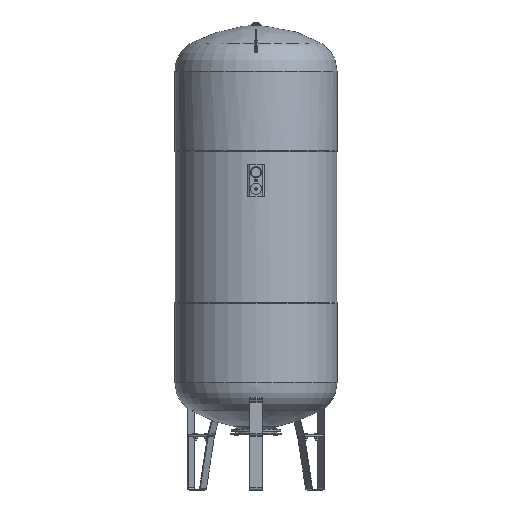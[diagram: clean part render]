
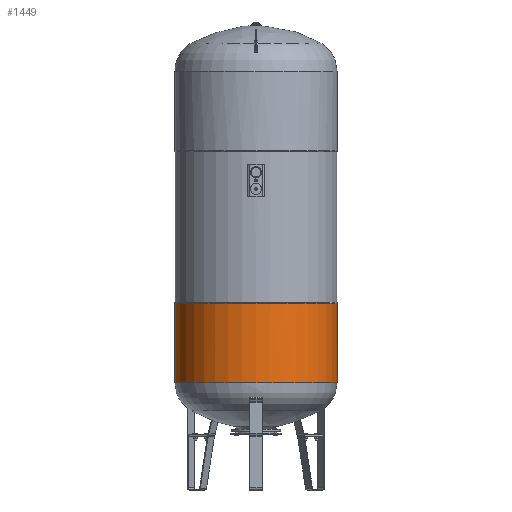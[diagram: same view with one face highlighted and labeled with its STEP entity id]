
A CAD part, front view. The second image highlights one B-rep face of the part: STEP entity #1449.
In plain terms, the highlighted cylindrical face has radius 390 mm (diameter 780 mm), a full revolution.
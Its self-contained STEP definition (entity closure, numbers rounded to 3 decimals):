
#1449=ADVANCED_FACE('',(#22510,#22512),#22514,.T.);
#22510=FACE_BOUND('',#22511,.T.);
#22511=EDGE_LOOP('',(#28095,#28096,#28097));
#22512=FACE_BOUND('',#22513,.T.);
#22513=EDGE_LOOP('',(#28098,#28099,#28100));
#22514=CYLINDRICAL_SURFACE('',#22515,390.);
#22515=AXIS2_PLACEMENT_3D('',#22516,#22517,#22518);
#22516=CARTESIAN_POINT('',(0.,0.,-559.801));
#22517=DIRECTION('',(0.,0.,-1.));
#22518=DIRECTION('',(0.,-1.,0.));
#28095=ORIENTED_EDGE('',*,*,#31824,.F.);
#28096=ORIENTED_EDGE('',*,*,#31823,.F.);
#28097=ORIENTED_EDGE('',*,*,#31822,.F.);
#28098=ORIENTED_EDGE('',*,*,#31797,.T.);
#28099=ORIENTED_EDGE('',*,*,#31796,.T.);
#28100=ORIENTED_EDGE('',*,*,#31795,.T.);
#31795=EDGE_CURVE('',#34240,#34241,#34242,.T.);
#31796=EDGE_CURVE('',#34243,#34240,#34244,.T.);
#31797=EDGE_CURVE('',#34241,#34243,#34245,.T.);
#31822=EDGE_CURVE('',#34294,#34295,#34296,.T.);
#31823=EDGE_CURVE('',#34295,#34297,#34298,.T.);
#31824=EDGE_CURVE('',#34297,#34294,#34299,.T.);
#34240=VERTEX_POINT('',#45803);
#34241=VERTEX_POINT('',#45804);
#34242=CIRCLE('',#45805,390.);
#34243=VERTEX_POINT('',#45809);
#34244=CIRCLE('',#45810,390.);
#34245=CIRCLE('',#45814,390.);
#34294=VERTEX_POINT('',#46028);
#34295=VERTEX_POINT('',#46029);
#34296=CIRCLE('',#46030,390.);
#34297=VERTEX_POINT('',#46034);
#34298=CIRCLE('',#46035,390.);
#34299=CIRCLE('',#46039,390.);
#45803=CARTESIAN_POINT('',(-389.998,1.386,-368.99));
#45804=CARTESIAN_POINT('',(0.,390.,-368.99));
#45805=AXIS2_PLACEMENT_3D('',#45806,#45807,#45808);
#45806=CARTESIAN_POINT('',(0.,0.,-368.99));
#45807=DIRECTION('',(0.,0.,-1.));
#45808=DIRECTION('',(-1.,0.004,0.));
#45809=CARTESIAN_POINT('',(0.,-390.,-368.99));
#45810=AXIS2_PLACEMENT_3D('',#45811,#45812,#45813);
#45811=CARTESIAN_POINT('',(0.,0.,-368.99));
#45812=DIRECTION('',(0.,0.,-1.));
#45813=DIRECTION('',(0.,-1.,0.));
#45814=AXIS2_PLACEMENT_3D('',#45815,#45816,#45817);
#45815=CARTESIAN_POINT('',(0.,0.,-368.99));
#45816=DIRECTION('',(0.,0.,-1.));
#45817=DIRECTION('',(0.,1.,0.));
#46028=CARTESIAN_POINT('',(15.774,389.681,-751.287));
#46029=CARTESIAN_POINT('',(0.,-390.,-751.287));
#46030=AXIS2_PLACEMENT_3D('',#46031,#46032,#46033);
#46031=CARTESIAN_POINT('',(0.,0.,-751.287));
#46032=DIRECTION('',(0.,0.,-1.));
#46033=DIRECTION('',(0.04,0.999,0.));
#46034=CARTESIAN_POINT('',(0.,390.,-751.287));
#46035=AXIS2_PLACEMENT_3D('',#46036,#46037,#46038);
#46036=CARTESIAN_POINT('',(0.,0.,-751.287));
#46037=DIRECTION('',(0.,0.,-1.));
#46038=DIRECTION('',(0.,-1.,0.));
#46039=AXIS2_PLACEMENT_3D('',#46040,#46041,#46042);
#46040=CARTESIAN_POINT('',(0.,0.,-751.287));
#46041=DIRECTION('',(0.,0.,-1.));
#46042=DIRECTION('',(0.,1.,0.));
